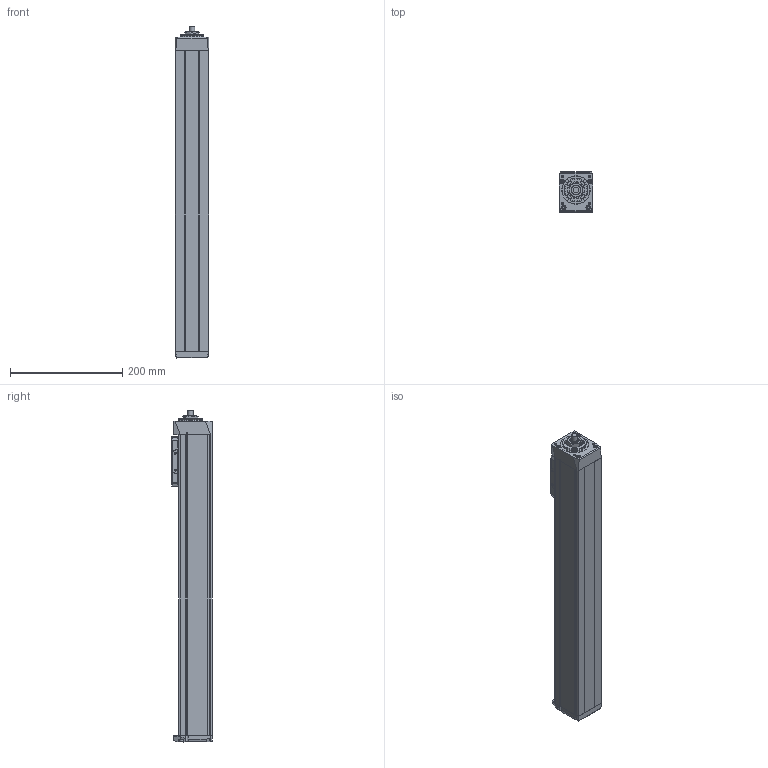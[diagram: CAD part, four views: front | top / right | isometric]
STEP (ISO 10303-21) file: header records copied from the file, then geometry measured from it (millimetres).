
FILE_DESCRIPTION(/* description */ ('STEP AP214'),/* implementation_level */ '2;1');
FILE_NAME(/* name */ 'MGBS 60 1210 400(0)',/* time_stamp */ '2023-04-17T13:19:21+02:00',/* author */ ('License CC BY-ND 4.0'),/* organization */ ('CADENAS'),/* preprocessor_version */ 'ST-DEVELOPER v19.3',/* originating_system */ 'PARTsolutions',/* authorisation */ ' ');
FILE_SCHEMA (('AUTOMOTIVE_DESIGN {1 0 10303 214 3 1 1}'));
Length unit declared in the file: millimetre
Products named in the file (6): MGBS 60 1210 400(0); MGBS 60 400_protection_strip; MGBS 60_carriage; MGBS 60_end_block; MGBS 60 400_profile; MGBS 60_drive_block
Assembly tree (5 placements, depth 2):
  MGBS 60 1210 400(0)
    MGBS 60 400_protection_strip
    MGBS 60_carriage
    MGBS 60_end_block
    MGBS 60 400_profile
    MGBS 60_drive_block
Bounding box: 60 x 72 x 592 mm (x, y, z)
Volume: 2042343.8 mm3; surface area: 259920 mm2
Topology: 5 solids, 5 shells, 694 faces, 1756 edges, 1135 vertices
Faces by surface type: plane 366, cylinder 144, cone 97, bspline 62, torus 23, sphere 2
Full cylindrical faces by diameter (mm): 2.459 x2, 2.46 x2, 3.242 x4, 4 x14, 4.134 x8, 4.8 x2, 5 x2, 5.5 x4, 7 x8, 7.6 x4, 8 x2, 10 x1, 11 x3, 23.8 x1, 30 x1, 42 x2, 50.2 x1
Entity records: 24817 total; most frequent: CARTESIAN_POINT 4104, DIRECTION 3372, ORIENTED_EDGE 3194, EDGE_CURVE 1597, AXIS2_PLACEMENT_3D 1197, VERTEX_POINT 1113, LINE 978, VECTOR 978
